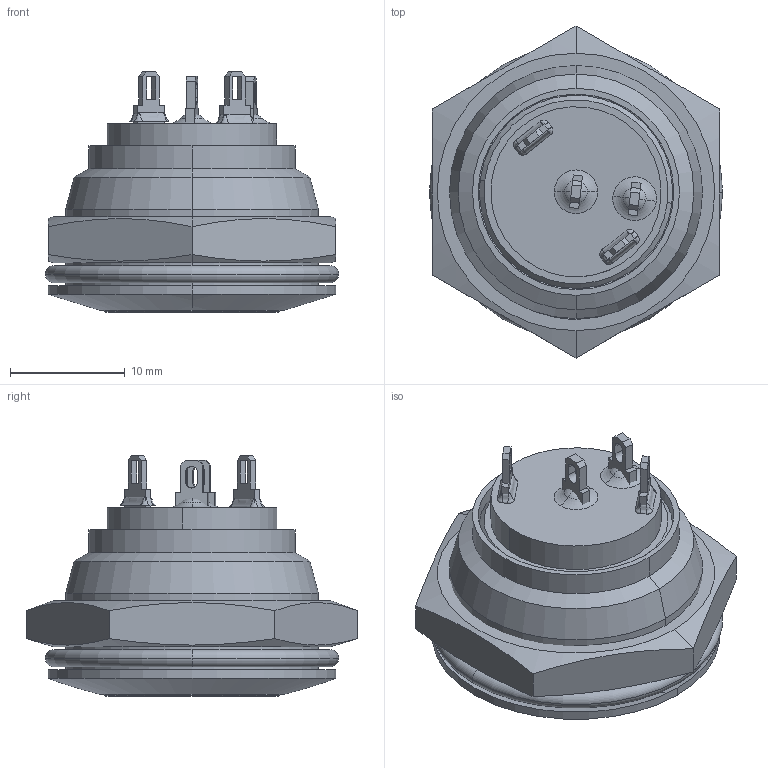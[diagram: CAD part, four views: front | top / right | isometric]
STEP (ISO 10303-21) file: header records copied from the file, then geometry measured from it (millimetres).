
FILE_DESCRIPTION((''),'2;1');
FILE_NAME('AV3SLD2071005K','2013-11-06T',('mkormann'),(''),'PRO/ENGINEER BY PARAMETRIC TECHNOLOGY CORPORATION, 2012480','PRO/ENGINEER BY PARAMETRIC TECHNOLOGY CORPORATION, 2012480','');
FILE_SCHEMA(('CONFIG_CONTROL_DESIGN'));
Length unit declared in the file: millimetre
Products named in the file (1): AV3SLD2071005K
Bounding box: 25.5 x 28.87 x 20.9 mm (x, y, z)
Surface area: 3521.8 mm2 (no closed solid volume)
Topology: 0 solids, 16 shells, 138 faces, 425 edges, 297 vertices
Faces by surface type: plane 76, cylinder 16, cone 16, bspline 16, torus 8, sphere 6
Entity records: 6433 total; most frequent: CARTESIAN_POINT 2677, DIRECTION 750, ORIENTED_EDGE 699, EDGE_CURVE 421, VERTEX_POINT 297, VECTOR 276, LINE 276, AXIS2_PLACEMENT_3D 237
